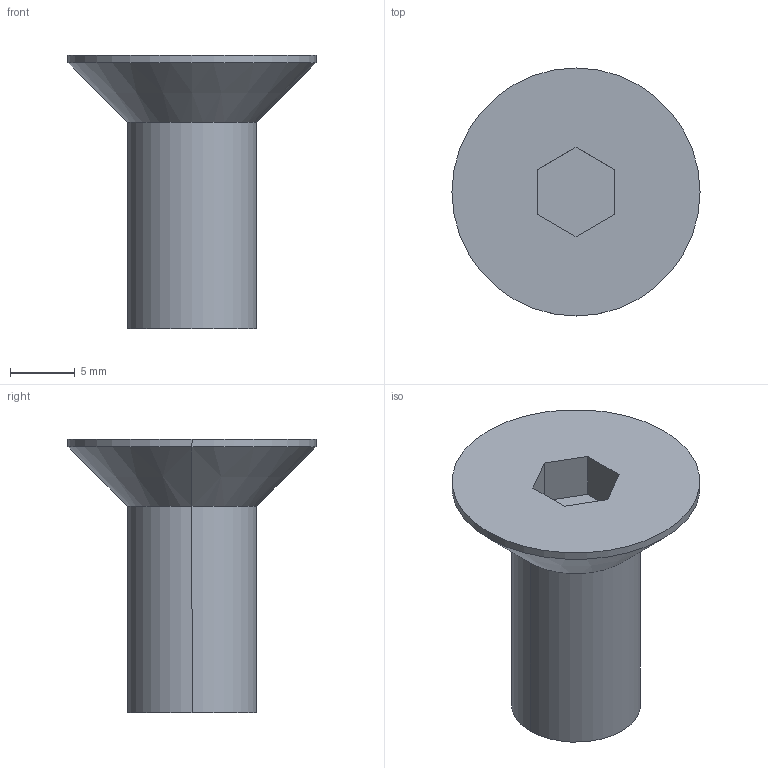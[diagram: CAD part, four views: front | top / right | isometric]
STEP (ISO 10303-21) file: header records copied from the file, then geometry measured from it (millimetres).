
FILE_DESCRIPTION (( 'STEP AP214' ), '1' );
FILE_NAME ('COUNTERSHUNK_HEAD_BOLT_M10(L=016).STEP', '2021-09-18T10:20:23', ( '' ), ( '' ), 'SwSTEP 2.0', 'SolidWorks 2018', '' );
FILE_SCHEMA (( 'AUTOMOTIVE_DESIGN' ));
Length unit declared in the file: millimetre
Products named in the file (1): COUNTERSHUNK_HEAD_BOLT_M10(L=016)
Bounding box: 19.22 x 19.22 x 21.22 mm (x, y, z)
Volume: 2119.9 mm3; surface area: 1282.2 mm2
Topology: 1 solids, 1 shells, 15 faces, 32 edges, 20 vertices
Faces by surface type: plane 9, cylinder 4, cone 2
Entity records: 436 total; most frequent: DIRECTION 72, CARTESIAN_POINT 68, ORIENTED_EDGE 64, EDGE_CURVE 32, AXIS2_PLACEMENT_3D 24, LINE 24, VECTOR 24, VERTEX_POINT 20
